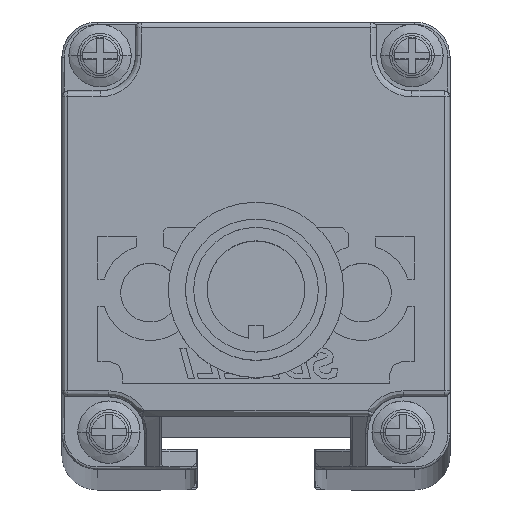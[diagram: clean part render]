
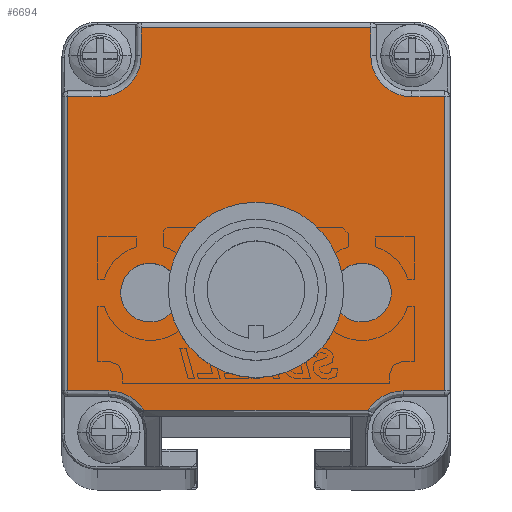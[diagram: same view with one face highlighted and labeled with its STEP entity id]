
A CAD part, top view. The second image highlights one B-rep face of the part: STEP entity #6694.
In plain terms, the highlighted planar face has unit normal (0, 0, 1).
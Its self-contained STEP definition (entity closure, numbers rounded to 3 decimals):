
#2629=CARTESIAN_POINT('',(0.65,-8.054,
885.276));
#2630=DIRECTION('',(0.,0.,1.));
#2631=DIRECTION('',(1.,0.,0.));
#2632=AXIS2_PLACEMENT_3D('',#2629,#2630,#2631);
#2634=CARTESIAN_POINT('',(0.65,-8.054,
885.276));
#2635=DIRECTION('',(0.,0.,1.));
#2636=DIRECTION('',(-1.,0.,0.));
#2637=AXIS2_PLACEMENT_3D('',#2634,#2635,#2636);
#2639=CARTESIAN_POINT('',(9.65,-8.055,885.276));
#2640=DIRECTION('',(0.,0.,1.));
#2641=DIRECTION('',(1.,-0.007,0.));
#2642=AXIS2_PLACEMENT_3D('',#2639,#2640,#2641);
#2644=CARTESIAN_POINT('',(9.65,-8.055,885.276));
#2645=DIRECTION('',(0.,0.,1.));
#2646=DIRECTION('',(-1.,0.007,0.));
#2647=AXIS2_PLACEMENT_3D('',#2644,#2645,#2646);
#2649=CARTESIAN_POINT('',(-8.35,-8.054,
885.276));
#2650=DIRECTION('',(0.,0.,1.));
#2651=DIRECTION('',(1.,0.007,0.));
#2652=AXIS2_PLACEMENT_3D('',#2649,#2650,#2651);
#2654=CARTESIAN_POINT('',(-8.35,-8.054,
885.276));
#2655=DIRECTION('',(0.,0.,1.));
#2656=DIRECTION('',(-1.,-0.007,0.));
#2657=AXIS2_PLACEMENT_3D('',#2654,#2655,#2656);
#2659=CARTESIAN_POINT('',(-11.85,-19.904,
885.276));
#2660=DIRECTION('',(0.,0.,1.));
#2661=DIRECTION('',(0.849,0.528,0.));
#2662=AXIS2_PLACEMENT_3D('',#2659,#2660,#2661);
#2664=CARTESIAN_POINT('',(-12.6,12.094,885.276));
#2665=DIRECTION('',(0.,0.,1.));
#2666=DIRECTION('',(0.,-1.,0.));
#2667=AXIS2_PLACEMENT_3D('',#2664,#2665,#2666);
#2669=CARTESIAN_POINT('',(13.9,12.094,885.276));
#2670=DIRECTION('',(0.,0.,1.));
#2671=DIRECTION('',(-1.,0.,0.));
#2672=AXIS2_PLACEMENT_3D('',#2669,#2670,#2671);
#2674=CARTESIAN_POINT('',(13.15,-19.904,885.276));
#2675=DIRECTION('',(0.,0.,1.));
#2676=DIRECTION('',(0.,1.,0.));
#2677=AXIS2_PLACEMENT_3D('',#2674,#2675,#2676);
#4239=DIRECTION('',(1.,0.,0.));
#4240=VECTOR('',#4239,19.056);
#4241=CARTESIAN_POINT('',(-8.878,-18.056,
885.276));
#4242=LINE('',#4241,#4240);
#4519=DIRECTION('',(1.,0.,0.));
#4520=VECTOR('',#4519,3.5);
#4521=CARTESIAN_POINT('',(13.15,-16.404,885.276));
#4522=LINE('',#4521,#4520);
#5182=DIRECTION('',(0.,1.,0.));
#5183=VECTOR('',#5182,2.35);
#5184=CARTESIAN_POINT('',(10.4,12.094,885.276));
#5185=LINE('',#5184,#5183);
#5205=DIRECTION('',(-1.,0.,0.));
#5206=VECTOR('',#5205,19.5);
#5207=CARTESIAN_POINT('',(10.4,14.444,885.276));
#5208=LINE('',#5207,#5206);
#5229=DIRECTION('',(0.,-1.,0.));
#5230=VECTOR('',#5229,2.35);
#5231=CARTESIAN_POINT('',(-9.1,14.444,885.276));
#5232=LINE('',#5231,#5230);
#5256=DIRECTION('',(-1.,0.,0.));
#5257=VECTOR('',#5256,2.75);
#5258=CARTESIAN_POINT('',(-12.6,8.594,885.276));
#5259=LINE('',#5258,#5257);
#5287=DIRECTION('',(0.,-1.,0.));
#5288=VECTOR('',#5287,24.998);
#5289=CARTESIAN_POINT('',(-15.35,8.594,885.276));
#5290=LINE('',#5289,#5288);
#5311=DIRECTION('',(1.,0.,0.));
#5312=VECTOR('',#5311,3.5);
#5313=CARTESIAN_POINT('',(-15.35,-16.404,
885.276));
#5314=LINE('',#5313,#5312);
#5375=DIRECTION('',(-1.,0.,0.));
#5376=VECTOR('',#5375,2.75);
#5377=CARTESIAN_POINT('',(16.65,8.594,885.276));
#5378=LINE('',#5377,#5376);
#5434=DIRECTION('',(0.,1.,0.));
#5435=VECTOR('',#5434,24.998);
#5436=CARTESIAN_POINT('',(16.65,-16.404,885.276));
#5437=LINE('',#5436,#5435);
#5781=CARTESIAN_POINT('',(12.15,-8.072,885.276));
#5782=VERTEX_POINT('',#5781);
#5783=CARTESIAN_POINT('',(7.15,-8.039,885.276));
#5784=VERTEX_POINT('',#5783);
#5785=CARTESIAN_POINT('',(-8.878,-18.056,
885.276));
#5786=CARTESIAN_POINT('',(-11.85,-16.404,
885.276));
#5787=VERTEX_POINT('',#5785);
#5788=VERTEX_POINT('',#5786);
#5789=CARTESIAN_POINT('',(-15.35,-16.404,
885.276));
#5790=VERTEX_POINT('',#5789);
#5791=CARTESIAN_POINT('',(-15.35,8.594,885.276));
#5792=VERTEX_POINT('',#5791);
#5793=CARTESIAN_POINT('',(-12.6,8.594,885.276));
#5794=VERTEX_POINT('',#5793);
#5795=CARTESIAN_POINT('',(-9.1,12.094,885.276));
#5796=VERTEX_POINT('',#5795);
#5797=CARTESIAN_POINT('',(-9.1,14.444,885.276));
#5798=VERTEX_POINT('',#5797);
#5799=CARTESIAN_POINT('',(10.4,14.444,885.276));
#5800=VERTEX_POINT('',#5799);
#5801=CARTESIAN_POINT('',(10.4,12.094,885.276));
#5802=VERTEX_POINT('',#5801);
#5803=CARTESIAN_POINT('',(13.9,8.594,885.276));
#5804=VERTEX_POINT('',#5803);
#5805=CARTESIAN_POINT('',(16.65,8.594,885.276));
#5806=VERTEX_POINT('',#5805);
#5807=CARTESIAN_POINT('',(16.65,-16.404,885.276));
#5808=VERTEX_POINT('',#5807);
#5809=CARTESIAN_POINT('',(13.15,-16.404,885.276));
#5810=VERTEX_POINT('',#5809);
#5811=CARTESIAN_POINT('',(10.178,-18.056,885.276));
#5812=VERTEX_POINT('',#5811);
#5813=CARTESIAN_POINT('',(-5.85,-8.037,
885.276));
#5814=CARTESIAN_POINT('',(-10.85,-8.07,
885.276));
#5815=VERTEX_POINT('',#5813);
#5816=VERTEX_POINT('',#5814);
#5817=CARTESIAN_POINT('',(3.65,-8.054,885.276));
#5818=CARTESIAN_POINT('',(-2.35,-8.054,
885.276));
#5819=VERTEX_POINT('',#5817);
#5820=VERTEX_POINT('',#5818);
#6643=CARTESIAN_POINT('',(0.65,0.944,
885.276));
#6644=DIRECTION('',(0.,0.,1.));
#6645=DIRECTION('',(1.,0.,0.));
#6646=AXIS2_PLACEMENT_3D('',#6643,#6644,#6645);
#6647=PLANE('',#6646);
#6649=ORIENTED_EDGE('',*,*,#6648,.T.);
#6651=ORIENTED_EDGE('',*,*,#6650,.F.);
#6653=ORIENTED_EDGE('',*,*,#6652,.F.);
#6655=ORIENTED_EDGE('',*,*,#6654,.F.);
#6657=ORIENTED_EDGE('',*,*,#6656,.T.);
#6659=ORIENTED_EDGE('',*,*,#6658,.F.);
#6661=ORIENTED_EDGE('',*,*,#6660,.F.);
#6663=ORIENTED_EDGE('',*,*,#6662,.F.);
#6665=ORIENTED_EDGE('',*,*,#6664,.T.);
#6667=ORIENTED_EDGE('',*,*,#6666,.F.);
#6669=ORIENTED_EDGE('',*,*,#6668,.F.);
#6671=ORIENTED_EDGE('',*,*,#6670,.F.);
#6673=ORIENTED_EDGE('',*,*,#6672,.T.);
#6675=ORIENTED_EDGE('',*,*,#6674,.F.);
#6676=EDGE_LOOP('',(#6649,#6651,#6653,#6655,#6657,#6659,#6661,#6663,#6665,#6667,
#6669,#6671,#6673,#6675));
#6677=FACE_OUTER_BOUND('',#6676,.F.);
#6678=ORIENTED_EDGE('',*,*,#6630,.T.);
#6679=ORIENTED_EDGE('',*,*,#6591,.T.);
#6680=EDGE_LOOP('',(#6678,#6679));
#6681=FACE_BOUND('',#6680,.F.);
#6683=ORIENTED_EDGE('',*,*,#6682,.T.);
#6685=ORIENTED_EDGE('',*,*,#6684,.T.);
#6686=EDGE_LOOP('',(#6683,#6685));
#6687=FACE_BOUND('',#6686,.F.);
#6689=ORIENTED_EDGE('',*,*,#6688,.T.);
#6691=ORIENTED_EDGE('',*,*,#6690,.T.);
#6692=EDGE_LOOP('',(#6689,#6691));
#6693=FACE_BOUND('',#6692,.F.);
#2633=CIRCLE('',#2632,3.);
#2638=CIRCLE('',#2637,3.);
#2643=CIRCLE('',#2642,2.5);
#2648=CIRCLE('',#2647,2.5);
#2653=CIRCLE('',#2652,2.5);
#2658=CIRCLE('',#2657,2.5);
#2663=CIRCLE('',#2662,3.5);
#2668=CIRCLE('',#2667,3.5);
#2673=CIRCLE('',#2672,3.5);
#2678=CIRCLE('',#2677,3.5);
#6591=EDGE_CURVE('',#5784,#5782,#2648,.T.);
#6630=EDGE_CURVE('',#5782,#5784,#2643,.T.);
#6648=EDGE_CURVE('',#5787,#5788,#2663,.T.);
#6650=EDGE_CURVE('',#5790,#5788,#5314,.T.);
#6652=EDGE_CURVE('',#5792,#5790,#5290,.T.);
#6654=EDGE_CURVE('',#5794,#5792,#5259,.T.);
#6656=EDGE_CURVE('',#5794,#5796,#2668,.T.);
#6658=EDGE_CURVE('',#5798,#5796,#5232,.T.);
#6660=EDGE_CURVE('',#5800,#5798,#5208,.T.);
#6662=EDGE_CURVE('',#5802,#5800,#5185,.T.);
#6664=EDGE_CURVE('',#5802,#5804,#2673,.T.);
#6666=EDGE_CURVE('',#5806,#5804,#5378,.T.);
#6668=EDGE_CURVE('',#5808,#5806,#5437,.T.);
#6670=EDGE_CURVE('',#5810,#5808,#4522,.T.);
#6672=EDGE_CURVE('',#5810,#5812,#2678,.T.);
#6674=EDGE_CURVE('',#5787,#5812,#4242,.T.);
#6682=EDGE_CURVE('',#5815,#5816,#2653,.T.);
#6684=EDGE_CURVE('',#5816,#5815,#2658,.T.);
#6688=EDGE_CURVE('',#5819,#5820,#2633,.T.);
#6690=EDGE_CURVE('',#5820,#5819,#2638,.T.);
#6694=ADVANCED_FACE('',(#6677,#6681,#6687,#6693),#6647,.T.);
